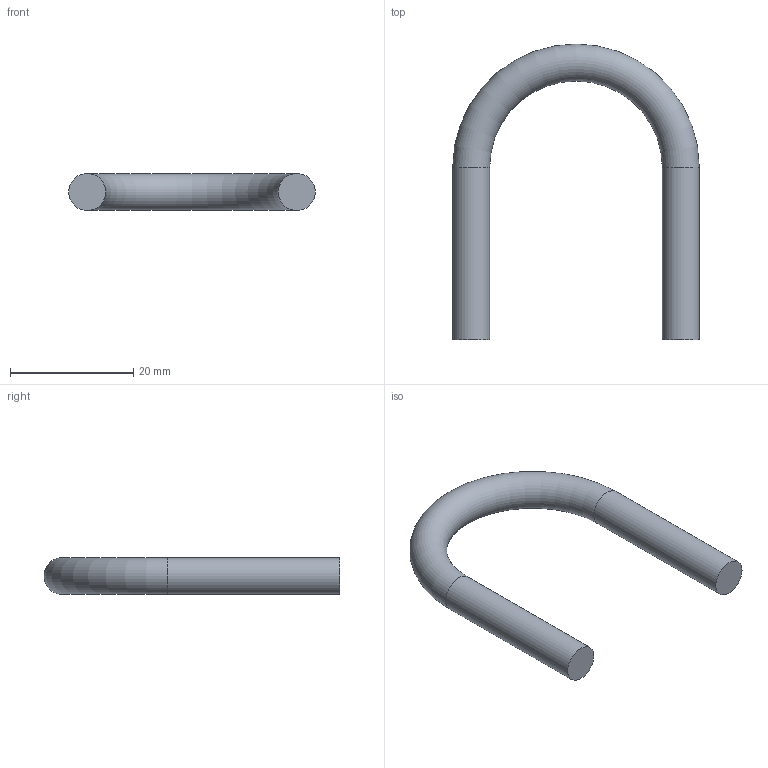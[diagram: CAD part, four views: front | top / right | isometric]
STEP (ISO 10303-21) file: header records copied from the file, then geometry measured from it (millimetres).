
FILE_DESCRIPTION(/* description */ (''),/* implementation_level */ '2;1');
FILE_NAME(/* name */ 'C:\Users\D\Documents\Inventor\各種小物\JIS\01-Uボルト2\一般配管用\20A\u-bolt-20a-m6.stp',/* time_stamp */ '2022-04-27T10:14:59+09:00',/* author */ ('D'),/* organization */ (''),/* preprocessor_version */ 'ST-DEVELOPER v18',/* originating_system */ 'Autodesk Inventor 2020',/* authorisation */ '');
FILE_SCHEMA (('AUTOMOTIVE_DESIGN { 1 0 10303 214 3 1 1 }'));
Length unit declared in the file: millimetre
Products named in the file (1): u-bolt-8a-m6
Bounding box: 40 x 48 x 6 mm (x, y, z)
Volume: 3093.4 mm3; surface area: 2118.8 mm2
Topology: 1 solids, 1 shells, 5 faces, 11 edges, 8 vertices
Faces by surface type: cylinder 2, plane 2, torus 1
Full cylindrical faces by diameter (mm): 6 x2
Entity records: 191 total; most frequent: DIRECTION 32, CARTESIAN_POINT 25, ORIENTED_EDGE 22, AXIS2_PLACEMENT_3D 15, EDGE_CURVE 11, CIRCLE 9, VERTEX_POINT 8, FACE_OUTER_BOUND 5
